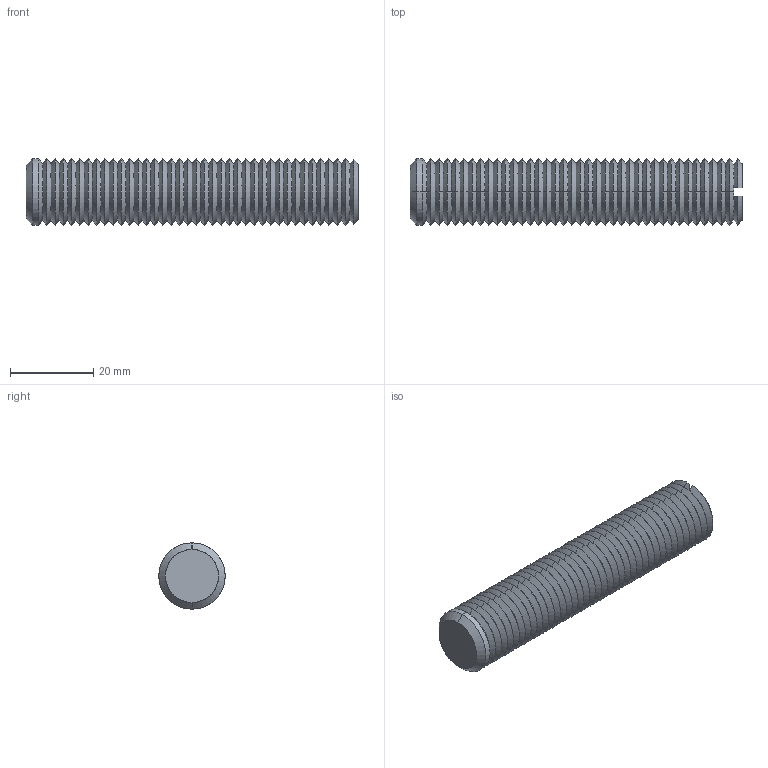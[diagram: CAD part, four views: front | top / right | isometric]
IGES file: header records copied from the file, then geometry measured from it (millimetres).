
Start section: SolidWorks IGES file using analytic representation for surfaces
Global section: file name: C:\Documents and Settings\IANO\Desktop\Temp File\Process pending\EXISTING\34300_v2\34300_v2_20170622_IGES\34300.W0168.igs; native system: SolidWorks 2009; preprocessor: SolidWorks 2009; author: IANO; date: 170622.094513; units: millimetre
Bounding box: 80 x 16 x 16 mm (x, y, z)
Surface area: 6199.5 mm2 (no closed solid volume)
Topology: 0 solids, 0 shells, 164 faces, 720 edges, 720 vertices
Faces by surface type: revolution 158, bspline 6
